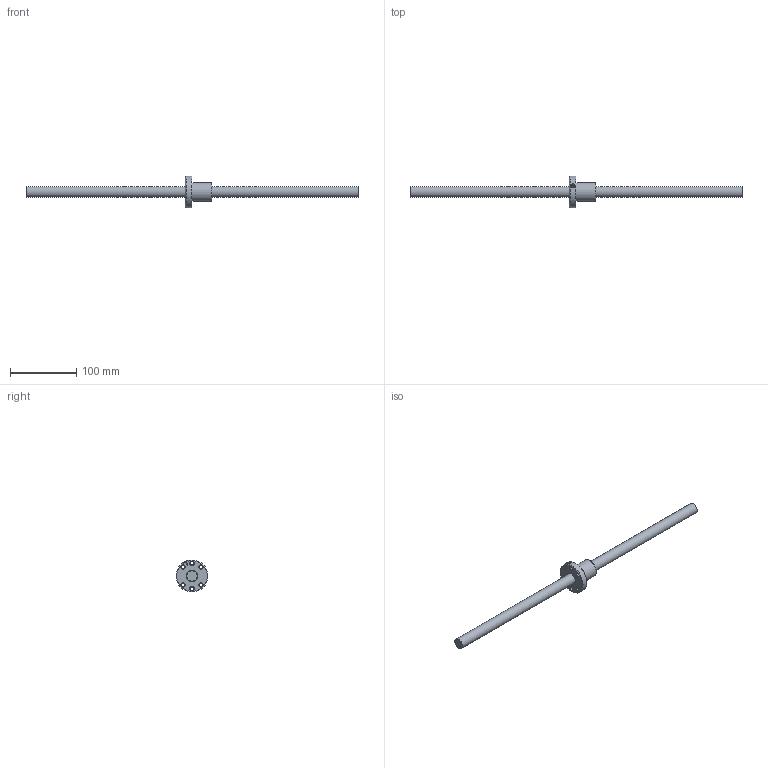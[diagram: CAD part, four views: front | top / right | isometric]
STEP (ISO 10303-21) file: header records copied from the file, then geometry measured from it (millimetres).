
FILE_DESCRIPTION (( 'STEP AP203' ), '1' );
FILE_NAME ('SFU01604N-4.step', '2024-05-14T06:00:53', ( '' ), ( '' ), 'SwSTEP 2.0', 'SolidWorks 2022', '' );
FILE_SCHEMA (( 'CONFIG_CONTROL_DESIGN' ));
Length unit declared in the file: millimetre
Products named in the file (1): SFU01604N-4
Bounding box: 500 x 48 x 48 mm (x, y, z)
Volume: 125576.4 mm3; surface area: 35812.7 mm2
Topology: 2 solids, 2 shells, 46 faces, 114 edges, 73 vertices
Faces by surface type: cylinder 18, cone 13, plane 6, bspline 6, torus 3
Full cylindrical faces by diameter (mm): 4 x1, 5 x6, 5.5 x6, 16 x1, 17.6 x1, 28 x1, 48 x1
Entity records: 3192 total; most frequent: CARTESIAN_POINT 2376, DIRECTION 148, ORIENTED_EDGE 108, EDGE_LOOP 87, AXIS2_PLACEMENT_3D 72, FACE_OUTER_BOUND 56, EDGE_CURVE 54, VERTEX_POINT 49
